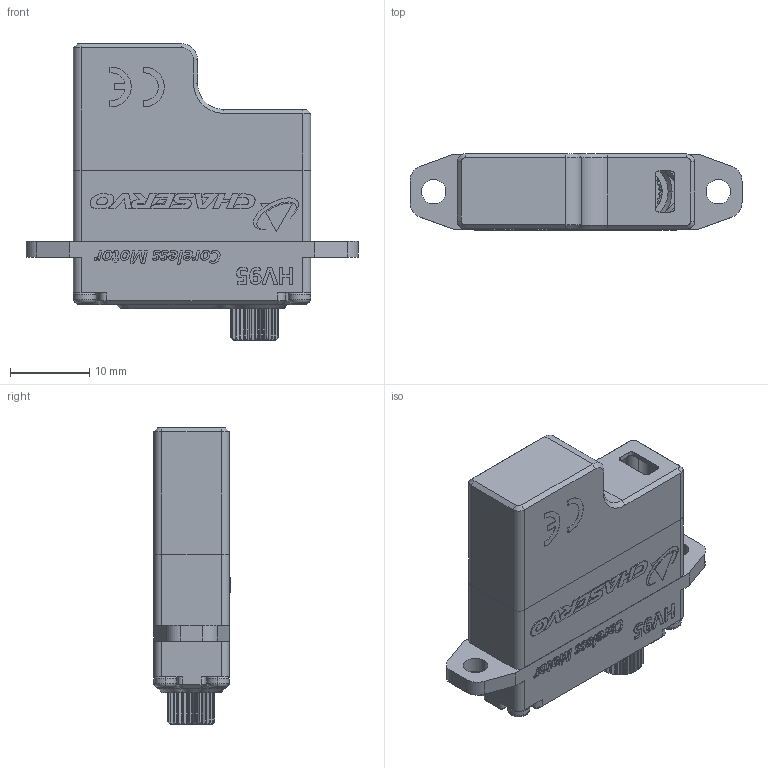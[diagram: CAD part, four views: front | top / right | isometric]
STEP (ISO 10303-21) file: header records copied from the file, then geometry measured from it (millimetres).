
FILE_DESCRIPTION (( 'STEP AP214' ), '1' );
FILE_NAME ('HV95_DM_20230526.STEP', '2023-05-26T09:30:09', ( '' ), ( '' ), 'SwSTEP 2.0', 'SolidWorks 2016', '' );
FILE_SCHEMA (( 'AUTOMOTIVE_DESIGN' ));
Length unit declared in the file: millimetre
Products named in the file (1): HV95_DM_20230526
Bounding box: 42 x 9.62 x 37.5 mm (x, y, z)
Surface area: 3975.1 mm2 (no closed solid volume)
Topology: 0 solids, 39 shells, 793 faces, 2371 edges, 1611 vertices
Faces by surface type: plane 322, bspline 265, cylinder 137, cone 53, torus 16
Entity records: 42784 total; most frequent: CARTESIAN_POINT 15111, ORIENTED_EDGE 3979, DIRECTION 3125, EDGE_CURVE 2367, VERTEX_POINT 1611, LINE 1319, VECTOR 1319, AXIS2_PLACEMENT_3D 903
